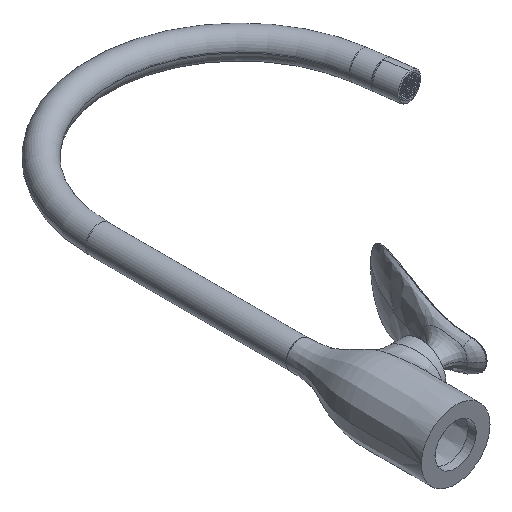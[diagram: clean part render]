
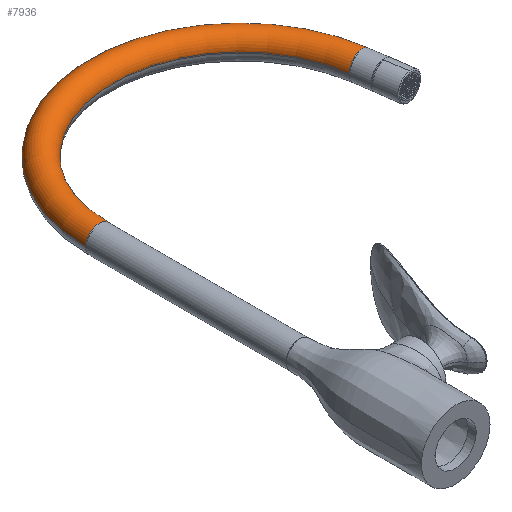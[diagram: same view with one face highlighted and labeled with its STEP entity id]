
A CAD part, isometric view. The second image highlights one B-rep face of the part: STEP entity #7936.
In plain terms, the highlighted toroidal (fillet/blend) face has major radius 105 mm and minor radius 10 mm.
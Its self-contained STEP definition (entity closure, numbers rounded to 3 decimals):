
#7737=CARTESIAN_POINT('',(105.,148.8,0.));
#7738=DIRECTION('',(0.,0.,-1.));
#7739=DIRECTION('',(-1.,0.,0.));
#7740=AXIS2_PLACEMENT_3D('',#7737,#7738,#7739);
#7742=CARTESIAN_POINT('',(208.978,163.413,0.));
#7743=DIRECTION('',(0.139,-0.99,0.));
#7744=DIRECTION('',(0.99,0.139,0.));
#7745=AXIS2_PLACEMENT_3D('',#7742,#7743,#7744);
#7747=CARTESIAN_POINT('',(0.,148.8,0.));
#7748=DIRECTION('',(0.,-1.,0.));
#7749=DIRECTION('',(1.,0.,0.));
#7750=AXIS2_PLACEMENT_3D('',#7747,#7748,#7749);
#7752=CARTESIAN_POINT('',(105.,148.8,0.));
#7753=DIRECTION('',(0.,0.,-1.));
#7754=DIRECTION('',(-1.,0.,0.));
#7755=AXIS2_PLACEMENT_3D('',#7752,#7753,#7754);
#7839=CARTESIAN_POINT('',(199.075,162.021,0.));
#7840=VERTEX_POINT('',#7839);
#7841=CARTESIAN_POINT('',(218.881,164.805,0.));
#7842=VERTEX_POINT('',#7841);
#7843=CARTESIAN_POINT('',(-10.,148.8,0.));
#7844=VERTEX_POINT('',#7843);
#7845=CARTESIAN_POINT('',(10.,148.8,0.));
#7846=VERTEX_POINT('',#7845);
#7924=CARTESIAN_POINT('',(105.,148.8,0.));
#7925=DIRECTION('',(0.,0.,1.));
#7926=DIRECTION('',(-0.99,-0.139,0.));
#7927=AXIS2_PLACEMENT_3D('',#7924,#7925,#7926);
#7928=TOROIDAL_SURFACE('',#7927,105.,10.);
#7929=ORIENTED_EDGE('',*,*,#7889,.T.);
#7930=ORIENTED_EDGE('',*,*,#7919,.F.);
#7932=ORIENTED_EDGE('',*,*,#7931,.T.);
#7933=ORIENTED_EDGE('',*,*,#7915,.T.);
#7934=EDGE_LOOP('',(#7929,#7930,#7932,#7933));
#7935=FACE_OUTER_BOUND('',#7934,.F.);
#7936=ADVANCED_FACE('',(#7935),#7928,.T.);
#7741=CIRCLE('',#7740,95.);
#7746=CIRCLE('',#7745,10.);
#7751=CIRCLE('',#7750,10.);
#7756=CIRCLE('',#7755,115.);
#7889=EDGE_CURVE('',#7842,#7840,#7746,.T.);
#7915=EDGE_CURVE('',#7844,#7842,#7756,.T.);
#7919=EDGE_CURVE('',#7846,#7840,#7741,.T.);
#7931=EDGE_CURVE('',#7846,#7844,#7751,.T.);
